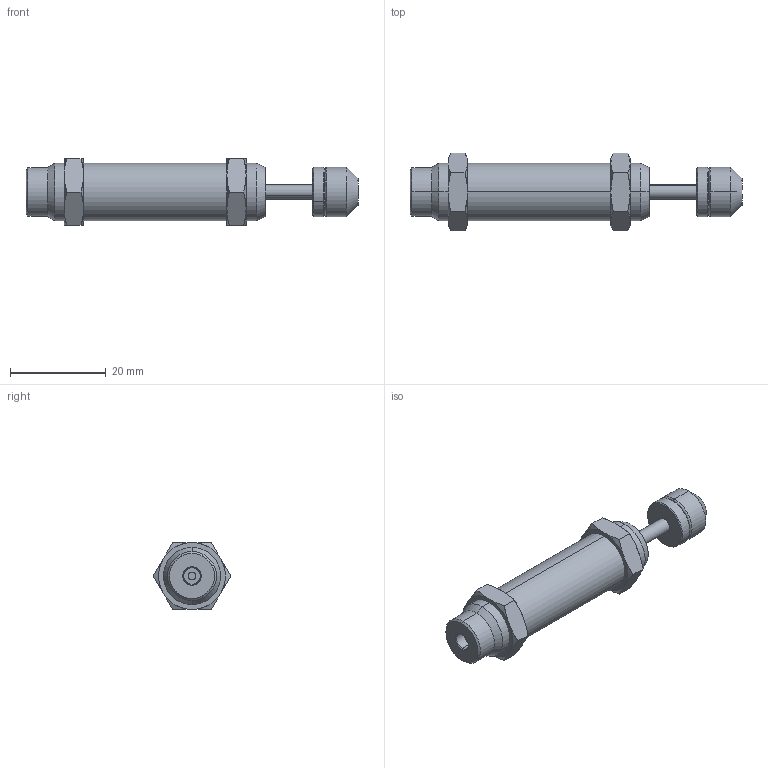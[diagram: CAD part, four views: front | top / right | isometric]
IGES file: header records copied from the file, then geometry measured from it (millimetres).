
Start section: SolidWorks IGES file using analytic representation for surfaces
Global section: file name: D:\IGS跡宒\AC1210.IGS,1; native system: 5HSolidWorks 2013; preprocessor: SolidWorks 2013; author: Administrator; date: 160406.151608; units: inch
Bounding box: 69.4 x 16.17 x 14 mm (x, y, z)
Surface area: 3579.2 mm2 (no closed solid volume)
Topology: 0 solids, 0 shells, 87 faces, 1264 edges, 1264 vertices
Faces by surface type: revolution 62, bspline 25
